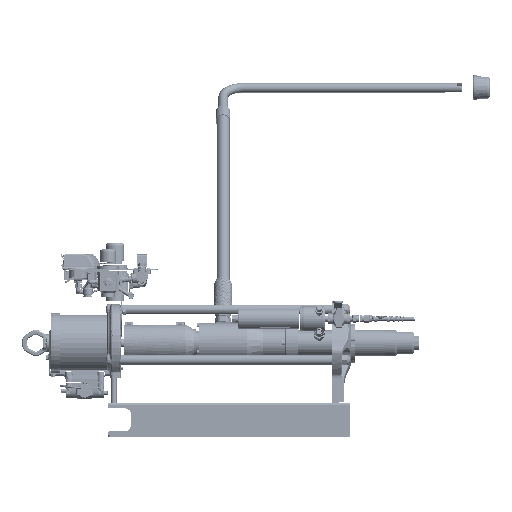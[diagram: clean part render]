
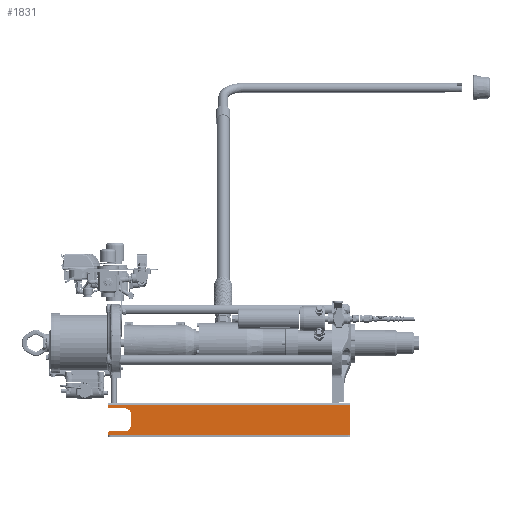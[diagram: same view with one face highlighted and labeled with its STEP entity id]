
A CAD part, left-side view. The second image highlights one B-rep face of the part: STEP entity #1831.
In plain terms, the highlighted planar face has unit normal (-1, 0, 0).
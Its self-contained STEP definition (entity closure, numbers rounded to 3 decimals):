
#567=CARTESIAN_POINT('',(-2.89,7.45,-1.));
#568=DIRECTION('',(1.,0.,0.));
#569=DIRECTION('',(0.,0.,1.));
#570=AXIS2_PLACEMENT_3D('',#567,#568,#569);
#577=DIRECTION('',(0.,0.,-1.));
#578=VECTOR('',#577,1.);
#579=CARTESIAN_POINT('',(-2.89,6.95,-1.));
#580=LINE('',#579,#578);
#581=DIRECTION('',(0.,-1.,0.));
#582=VECTOR('',#581,1.375);
#583=CARTESIAN_POINT('',(-2.89,8.825,-0.5));
#584=LINE('',#583,#582);
#585=CARTESIAN_POINT('',(-2.89,8.825,-0.375));
#586=DIRECTION('',(-1.,0.,0.));
#587=DIRECTION('',(0.,1.,0.));
#588=AXIS2_PLACEMENT_3D('',#585,#586,#587);
#590=DIRECTION('',(0.,1.,0.));
#591=VECTOR('',#590,21.335);
#592=CARTESIAN_POINT('',(-2.89,-12.385,-0.195));
#593=LINE('',#592,#591);
#594=CARTESIAN_POINT('',(-2.89,8.825,-2.625));
#595=DIRECTION('',(-1.,0.,0.));
#596=DIRECTION('',(0.,0.,1.));
#597=AXIS2_PLACEMENT_3D('',#594,#595,#596);
#599=DIRECTION('',(0.,-1.,0.));
#600=VECTOR('',#599,1.375);
#601=CARTESIAN_POINT('',(-2.89,8.825,-2.5));
#602=LINE('',#601,#600);
#611=CARTESIAN_POINT('',(-2.89,7.45,-2.));
#612=DIRECTION('',(1.,0.,0.));
#613=DIRECTION('',(0.,-1.,0.));
#614=AXIS2_PLACEMENT_3D('',#611,#612,#613);
#633=DIRECTION('',(0.,0.,-1.));
#634=VECTOR('',#633,0.181);
#635=CARTESIAN_POINT('',(-2.89,8.95,-2.625));
#636=LINE('',#635,#634);
#724=DIRECTION('',(0.,-1.,0.));
#725=VECTOR('',#724,21.335);
#726=CARTESIAN_POINT('',(-2.89,8.95,-2.806));
#727=LINE('',#726,#725);
#749=DIRECTION('',(0.,0.,-1.));
#750=VECTOR('',#749,2.611);
#751=CARTESIAN_POINT('',(-2.89,-12.385,-0.195));
#752=LINE('',#751,#750);
#773=DIRECTION('',(0.,0.,-1.));
#774=VECTOR('',#773,0.181);
#775=CARTESIAN_POINT('',(-2.89,8.95,-0.195));
#776=LINE('',#775,#774);
#949=CARTESIAN_POINT('',(-2.89,-12.385,-0.195));
#950=VERTEX_POINT('',#949);
#951=CARTESIAN_POINT('',(-2.89,8.95,-0.195));
#952=VERTEX_POINT('',#951);
#985=CARTESIAN_POINT('',(-2.89,-12.385,-2.806));
#986=VERTEX_POINT('',#985);
#987=CARTESIAN_POINT('',(-2.89,8.95,-2.806));
#988=VERTEX_POINT('',#987);
#1037=CARTESIAN_POINT('',(-2.89,8.95,-0.375));
#1038=CARTESIAN_POINT('',(-2.89,8.825,-0.5));
#1039=VERTEX_POINT('',#1037);
#1040=VERTEX_POINT('',#1038);
#1045=CARTESIAN_POINT('',(-2.89,8.825,-2.5));
#1046=CARTESIAN_POINT('',(-2.89,8.95,-2.625));
#1047=VERTEX_POINT('',#1045);
#1048=VERTEX_POINT('',#1046);
#1069=CARTESIAN_POINT('',(-2.89,6.95,-2.));
#1071=VERTEX_POINT('',#1069);
#1073=CARTESIAN_POINT('',(-2.89,7.45,-2.5));
#1075=VERTEX_POINT('',#1073);
#1077=CARTESIAN_POINT('',(-2.89,7.45,-0.5));
#1079=VERTEX_POINT('',#1077);
#1081=CARTESIAN_POINT('',(-2.89,6.95,-1.));
#1083=VERTEX_POINT('',#1081);
#1803=CARTESIAN_POINT('',(-2.89,-12.385,-0.195));
#1804=DIRECTION('',(1.,0.,0.));
#1805=DIRECTION('',(0.,0.,-1.));
#1806=AXIS2_PLACEMENT_3D('',#1803,#1804,#1805);
#1807=PLANE('',#1806);
#1809=ORIENTED_EDGE('',*,*,#1808,.F.);
#1810=ORIENTED_EDGE('',*,*,#1795,.F.);
#1811=ORIENTED_EDGE('',*,*,#1784,.F.);
#1813=ORIENTED_EDGE('',*,*,#1812,.F.);
#1815=ORIENTED_EDGE('',*,*,#1814,.F.);
#1816=ORIENTED_EDGE('',*,*,#1289,.F.);
#1818=ORIENTED_EDGE('',*,*,#1817,.T.);
#1820=ORIENTED_EDGE('',*,*,#1819,.F.);
#1822=ORIENTED_EDGE('',*,*,#1821,.F.);
#1824=ORIENTED_EDGE('',*,*,#1823,.F.);
#1826=ORIENTED_EDGE('',*,*,#1825,.T.);
#1828=ORIENTED_EDGE('',*,*,#1827,.F.);
#1829=EDGE_LOOP('',(#1809,#1810,#1811,#1813,#1815,#1816,#1818,#1820,#1822,#1824,
#1826,#1828));
#1830=FACE_OUTER_BOUND('',#1829,.F.);
#1831=ADVANCED_FACE('',(#1830),#1807,.F.);
#571=CIRCLE('',#570,0.5);
#589=CIRCLE('',#588,0.125);
#598=CIRCLE('',#597,0.125);
#615=CIRCLE('',#614,0.5);
#1289=EDGE_CURVE('',#950,#952,#593,.T.);
#1784=EDGE_CURVE('',#1040,#1079,#584,.T.);
#1795=EDGE_CURVE('',#1079,#1083,#571,.T.);
#1808=EDGE_CURVE('',#1083,#1071,#580,.T.);
#1812=EDGE_CURVE('',#1039,#1040,#589,.T.);
#1814=EDGE_CURVE('',#952,#1039,#776,.T.);
#1817=EDGE_CURVE('',#950,#986,#752,.T.);
#1819=EDGE_CURVE('',#988,#986,#727,.T.);
#1821=EDGE_CURVE('',#1048,#988,#636,.T.);
#1823=EDGE_CURVE('',#1047,#1048,#598,.T.);
#1825=EDGE_CURVE('',#1047,#1075,#602,.T.);
#1827=EDGE_CURVE('',#1071,#1075,#615,.T.);
